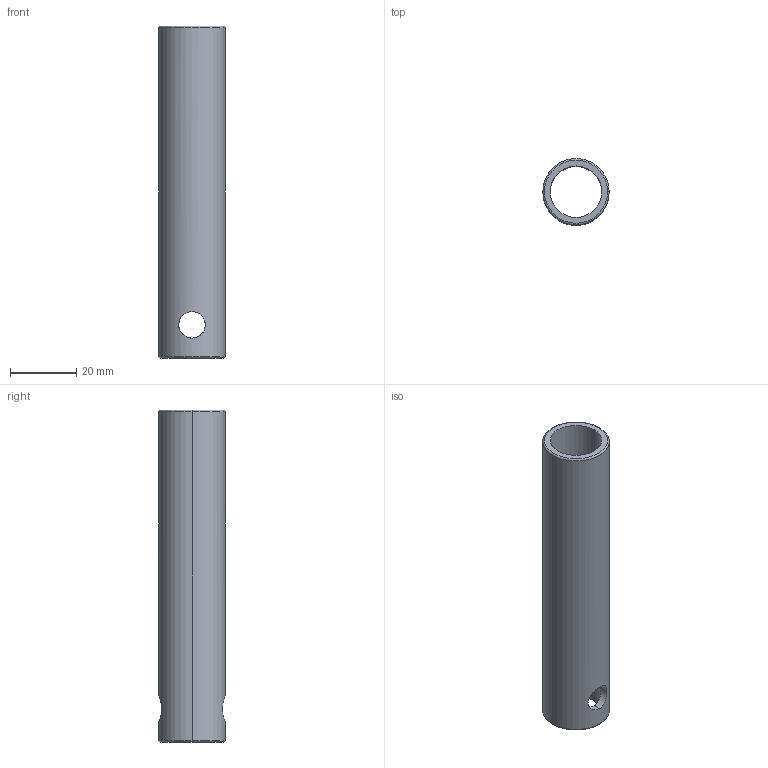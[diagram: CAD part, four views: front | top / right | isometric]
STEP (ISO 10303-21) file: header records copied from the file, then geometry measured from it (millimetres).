
FILE_DESCRIPTION (( 'STEP AP214' ), '1' );
FILE_NAME ('SMBY20-100.STEP', '2023-01-05T09:28:28', ( 'Windows User' ), ( 'P R C' ), 'SwSTEP 2.0', 'SolidWorks 2018', '' );
FILE_SCHEMA (( 'AUTOMOTIVE_DESIGN' ));
Length unit declared in the file: millimetre
Products named in the file (1): SMBY20-100
Bounding box: 20 x 20 x 100 mm (x, y, z)
Volume: 12307.5 mm3; surface area: 11289.2 mm2
Topology: 1 solids, 1 shells, 14 faces, 32 edges, 20 vertices
Faces by surface type: cylinder 8, torus 4, plane 2
Entity records: 720 total; most frequent: CARTESIAN_POINT 335, DIRECTION 70, ORIENTED_EDGE 64, EDGE_CURVE 32, AXIS2_PLACEMENT_3D 31, EDGE_LOOP 20, VERTEX_POINT 20, CIRCLE 16
